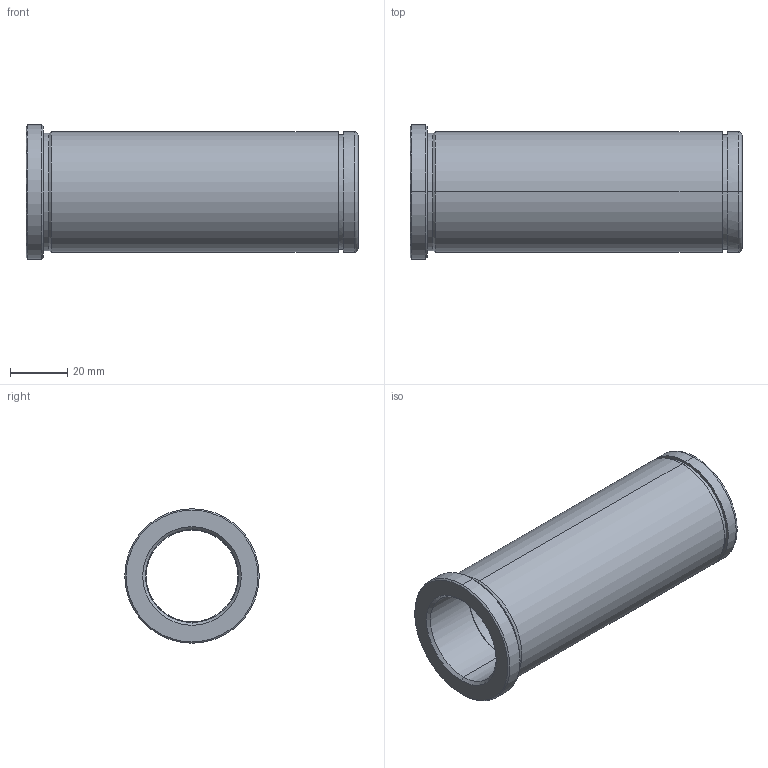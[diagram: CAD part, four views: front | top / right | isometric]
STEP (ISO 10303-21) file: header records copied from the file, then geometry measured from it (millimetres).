
FILE_DESCRIPTION(('CATIA V5 STEP Exchange'),'2;1');
FILE_NAME('C:\Users\Utente\Desktop\IO LAVORO\3D X SITO CF\X SITO\PLASTICA\553\553-32X116.stp','2021-05-26T18:42:12+00:00',('none'),('none'),'CATIA Version 5 Release 20 GA (IN-10)','CATIA V5 STEP AP203','none');
FILE_SCHEMA(('CONFIG_CONTROL_DESIGN'));
Length unit declared in the file: millimetre
Products named in the file (1): 553-32X116
Bounding box: 116 x 47 x 47 mm (x, y, z)
Volume: 68343 mm3; surface area: 28956.1 mm2
Topology: 1 solids, 1 shells, 32 faces, 102 edges, 76 vertices
Faces by surface type: cylinder 14, cone 8, plane 6, torus 4
Entity records: 1340 total; most frequent: CARTESIAN_POINT 399, ORIENTED_EDGE 204, DIRECTION 150, EDGE_CURVE 102, AXIS2_PLACEMENT_3D 97, VERTEX_POINT 76, CIRCLE 64, EDGE_LOOP 38
